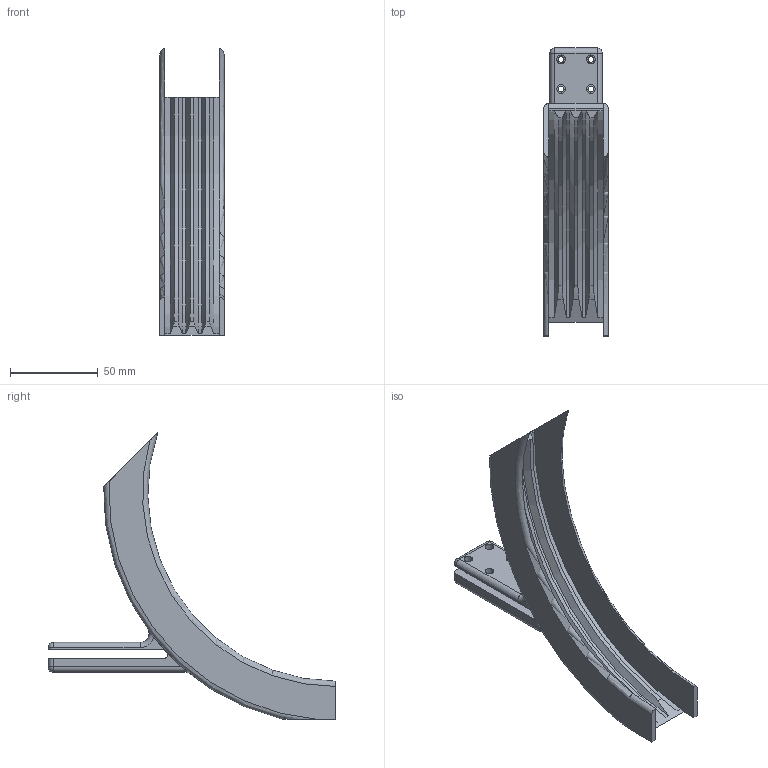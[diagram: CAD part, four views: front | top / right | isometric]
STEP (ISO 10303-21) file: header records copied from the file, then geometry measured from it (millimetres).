
FILE_DESCRIPTION(/* description */ ('STEP AP242 Edition 2','CAx-IF Rec.Pracs.---Representation and Presentation of Product Manufacturing Information (PMI)---4.0---2014-10-13','CAx-IF Rec.Pracs.---3D Tessellated Geometry---0.4---2014-09-14','2;1','CAx-IF Rec.Pracs.---User Defined Attributes---1.5---2016-08-15'),/* implementation_level */ '2;1');
FILE_NAME(/* name */ 'Part Studio 1 - Crescent Slide',/* time_stamp */ '2026-04-09T20:19:24Z',/* author */ (''),/* organization */ (''),/* preprocessor_version */ 'ST-DEVELOPER v20',/* originating_system */ 'ONSHAPE BY PTC INC, 1.213',/* authorisation */ ' ');
FILE_SCHEMA (('AP242_MANAGED_MODEL_BASED_3D_ENGINEERING_MIM_LF { 1 0 10303 442 3 1 4 }'));
Length unit declared in the file: metre
Products named in the file (1): Crescent Slide
Bounding box: 37 x 164.49 x 163.94 mm (x, y, z)
Volume: 89166.3 mm3; surface area: 45672.1 mm2
Topology: 1 solids, 1 shells, 79 faces, 213 edges, 134 vertices
Faces by surface type: cylinder 36, plane 25, torus 8, cone 6, sphere 4
Full cylindrical faces by diameter (mm): 3.3 x4, 5 x4
Entity records: 2460 total; most frequent: CARTESIAN_POINT 508, DIRECTION 411, ORIENTED_EDGE 386, EDGE_CURVE 193, AXIS2_PLACEMENT_3D 162, VERTEX_POINT 126, EDGE_LOOP 105, FACE_BOUND 105
